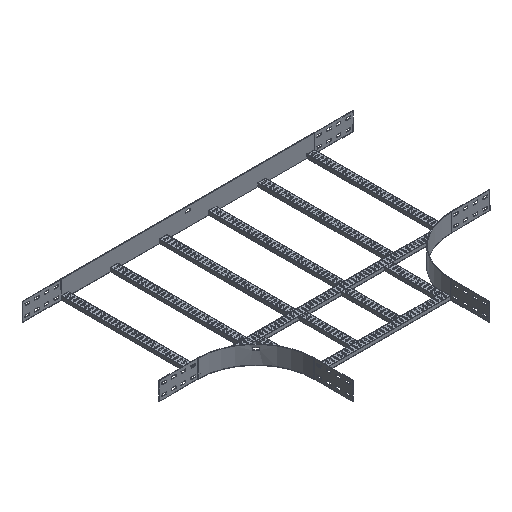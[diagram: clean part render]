
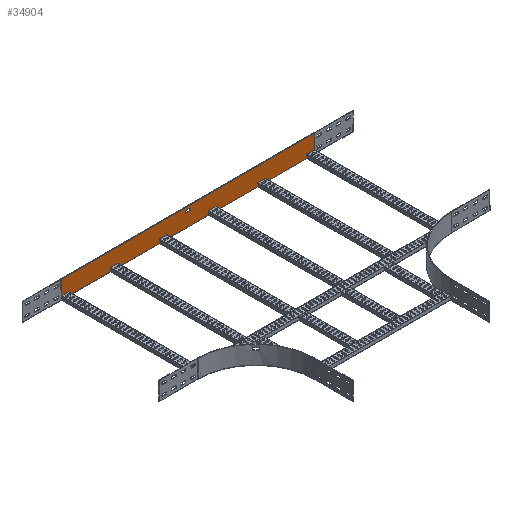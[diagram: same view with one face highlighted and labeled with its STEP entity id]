
A CAD part, isometric view. The second image highlights one B-rep face of the part: STEP entity #34904.
In plain terms, the highlighted planar face has unit normal (0, -1, 0).
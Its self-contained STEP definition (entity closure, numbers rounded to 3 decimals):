
#1522=FACE_BOUND('',#7146,.T.);
#4752=FACE_OUTER_BOUND('',#7145,.T.);
#7145=EDGE_LOOP('',(#32085,#32086,#32087,#32088));
#7146=EDGE_LOOP('',(#32089,#32090,#32091,#32092));
#10528=LINE('',#77401,#13980);
#10530=LINE('',#77407,#13982);
#10533=LINE('',#77412,#13985);
#10540=LINE('',#77425,#13992);
#10541=LINE('',#77429,#13993);
#10542=LINE('',#77431,#13994);
#10543=LINE('',#77433,#13995);
#10544=LINE('',#77434,#13996);
#13980=VECTOR('',#45736,304.8);
#13982=VECTOR('',#45740,304.8);
#13985=VECTOR('',#45745,304.8);
#13992=VECTOR('',#45756,304.8);
#13993=VECTOR('',#45759,304.8);
#13994=VECTOR('',#45760,304.8);
#13995=VECTOR('',#45761,304.8);
#13996=VECTOR('',#45762,304.8);
#17333=VERTEX_POINT('',#77394);
#17336=VERTEX_POINT('',#77399);
#17338=VERTEX_POINT('',#77404);
#17339=VERTEX_POINT('',#77406);
#17345=VERTEX_POINT('',#77427);
#17346=VERTEX_POINT('',#77428);
#17347=VERTEX_POINT('',#77430);
#17348=VERTEX_POINT('',#77432);
#22260=EDGE_CURVE('',#17336,#17333,#10528,.T.);
#22262=EDGE_CURVE('',#17338,#17339,#10530,.T.);
#22265=EDGE_CURVE('',#17333,#17338,#10533,.T.);
#22272=EDGE_CURVE('',#17339,#17336,#10540,.T.);
#22273=EDGE_CURVE('',#17345,#17346,#10541,.T.);
#22274=EDGE_CURVE('',#17346,#17347,#10542,.T.);
#22275=EDGE_CURVE('',#17347,#17348,#10543,.T.);
#22276=EDGE_CURVE('',#17348,#17345,#10544,.T.);
#32085=ORIENTED_EDGE('',*,*,#22260,.F.);
#32086=ORIENTED_EDGE('',*,*,#22272,.F.);
#32087=ORIENTED_EDGE('',*,*,#22262,.F.);
#32088=ORIENTED_EDGE('',*,*,#22265,.F.);
#32089=ORIENTED_EDGE('',*,*,#22273,.T.);
#32090=ORIENTED_EDGE('',*,*,#22274,.T.);
#32091=ORIENTED_EDGE('',*,*,#22275,.T.);
#32092=ORIENTED_EDGE('',*,*,#22276,.T.);
#33216=PLANE('',#37430);
#34904=ADVANCED_FACE('',(#4752,#1522),#33216,.T.);
#37430=AXIS2_PLACEMENT_3D('',#77426,#45757,#45758);
#45736=DIRECTION('',(0.,0.,1.));
#45740=DIRECTION('',(0.,0.,-1.));
#45745=DIRECTION('',(1.,0.,0.));
#45756=DIRECTION('',(-1.,0.,0.));
#45757=DIRECTION('center_axis',(0.,-1.,0.));
#45758=DIRECTION('ref_axis',(1.,0.,0.));
#45759=DIRECTION('',(-1.,0.,0.));
#45760=DIRECTION('',(0.,0.,1.));
#45761=DIRECTION('',(1.,0.,0.));
#45762=DIRECTION('',(0.,0.,-1.));
#77394=CARTESIAN_POINT('',(-655.5,352.5,47.));
#77399=CARTESIAN_POINT('',(-655.5,352.5,-47.));
#77401=CARTESIAN_POINT('',(-655.5,352.5,-47.));
#77404=CARTESIAN_POINT('',(655.5,352.5,47.));
#77406=CARTESIAN_POINT('',(655.5,352.5,-47.));
#77407=CARTESIAN_POINT('',(655.5,352.5,47.));
#77412=CARTESIAN_POINT('',(-655.5,352.5,47.));
#77425=CARTESIAN_POINT('',(-655.5,352.5,-47.));
#77426=CARTESIAN_POINT('Origin',(-655.5,352.5,-47.));
#77427=CARTESIAN_POINT('',(12.5,352.5,20.46));
#77428=CARTESIAN_POINT('',(-12.5,352.5,20.46));
#77429=CARTESIAN_POINT('',(12.5,352.5,20.46));
#77430=CARTESIAN_POINT('',(-12.5,352.5,31.46));
#77431=CARTESIAN_POINT('',(-12.5,352.5,20.46));
#77432=CARTESIAN_POINT('',(12.5,352.5,31.46));
#77433=CARTESIAN_POINT('',(-12.5,352.5,31.46));
#77434=CARTESIAN_POINT('',(12.5,352.5,31.46));
